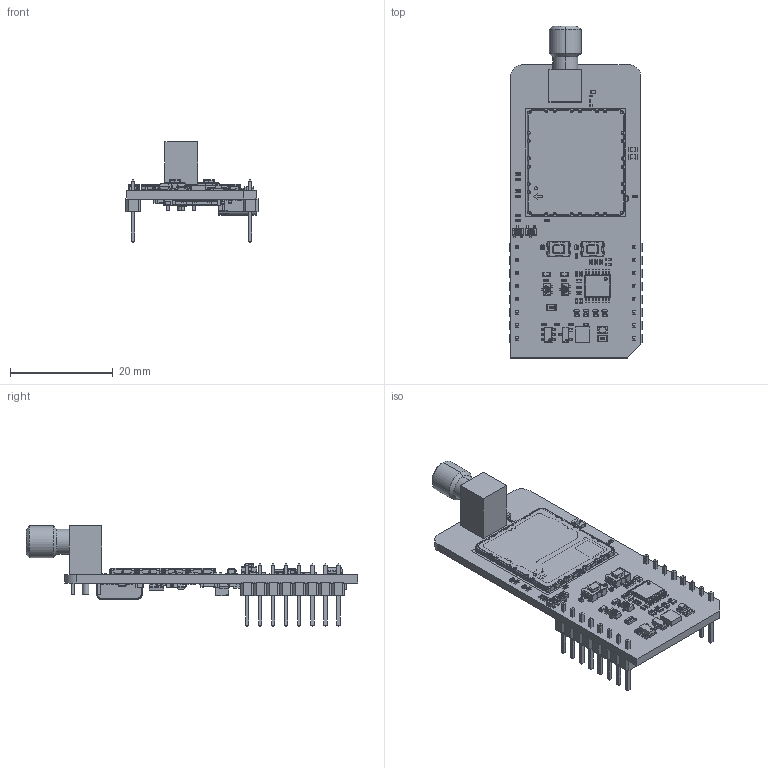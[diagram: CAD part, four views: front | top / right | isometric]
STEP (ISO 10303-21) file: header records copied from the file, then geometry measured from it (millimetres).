
FILE_DESCRIPTION(('Open CASCADE Model'),'2;1');
FILE_NAME('Open CASCADE Shape Model','2026-03-12T09:42:48',('Author'),( 'Open CASCADE'),'Open CASCADE STEP processor 7.5','Open CASCADE 7.5' ,'Unknown');
FILE_SCHEMA(('AUTOMOTIVE_DESIGN { 1 0 10303 214 1 1 1 1 }'));
Length unit declared in the file: millimetre
Products named in the file (332): PCB; Board; Open CASCADE STEP translator 7.5 1.1.1; R39; User Library-R_0402; R38; MBD1; Header 1x8; Free-Models; 1240637040; User_Library-PinHeaderX5-1_PinHeaderX5_Body_1; User_Library-PinHeaderX5-1_PinHeaderX5_Pins_1; TVS9; User Library-R_0603; R37; R36; R35; R34; R33; D2; User Library-SOT50P160X60-6; C33; User Library-SMD CAPACITOR0603; C20; U3; GC02S1_Main_PCBA_20240801; GC02S1_MAIN_PCB; Open CASCADE STEP translator 7.5 1.14.1.1.1; Open CASCADE STEP translator 7.5 1.14.1.1.2; GC02S1_SHIELDING_ASM_MP_ASM; GC02S1_SHIELDING_FRAME_MP; Open CASCADE STEP translator 7.5 1.14.1.2.1.1; Open CASCADE STEP translator 7.5 1.14.1.2.1.2; GC02S1_SHIELDING_LID_MP; Open CASCADE STEP translator 7.5 1.14.1.2.2.1; Open CASCADE STEP translator 7.5 1.14.1.2.2.2; GC02S1_PLACEMENT_HW_20240801; Open CASCADE STEP translator 7.5 1.14.1.3.1; Open CASCADE STEP translator 7.5 1.14.1.3.2; Open CASCADE STEP translator 7.5 1.14.1.3.3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
Assembly tree (424 placements, depth 10):
  PCB
    Board
      Open CASCADE STEP translator 7.5 1.1.1
    R39
      User Library-R_0402
    R38
      User Library-R_0402
    MBD1
      Header 1x8  x2
        PCB
          Free-Models
            1240637040  x2
              User_Library-PinHeaderX5-1_PinHeaderX5_Body_1
              User_Library-PinHeaderX5-1_PinHeaderX5_Pins_1
    TVS9
      User Library-R_0603
    R37
      User Library-R_0402
    R36
      User Library-R_0402
    R35
      User Library-R_0402
    R34
      User Library-R_0402
    R33
      User Library-R_0402
    D2
      User Library-SOT50P160X60-6
    C33
      User Library-SMD CAPACITOR0603
    C20
      User Library-SMD CAPACITOR0603
    U3
      GC02S1_Main_PCBA_20240801
        GC02S1_MAIN_PCB
          Open CASCADE STEP translator 7.5 1.14.1.1.1
          Open CASCADE STEP translator 7.5 1.14.1.1.2
        GC02S1_SHIELDING_ASM_MP_ASM
          GC02S1_SHIELDING_FRAME_MP
            Open CASCADE STEP translator 7.5 1.14.1.2.1.1
            Open CASCADE STEP translator 7.5 1.14.1.2.1.2
          GC02S1_SHIELDING_LID_MP
            Open CASCADE STEP translator 7.5 1.14.1.2.2.1
            Open CASCADE STEP translator 7.5 1.14.1.2.2.2
        GC02S1_PLACEMENT_HW_20240801
          Open CASCADE STEP translator 7.5 1.14.1.3.1
          Open CASCADE STEP translator 7.5 1.14.1.3.2
          Open CASCADE STEP translator 7.5 1.14.1.3.3
          Open CASCADE STEP translator 7.5 1.14.1.3.4
          Open CASCADE STEP translator 7.5 1.14.1.3.5
          Open CASCADE STEP translator 7.5 1.14.1.3.6
          Open CASCADE STEP translator 7.5 1.14.1.3.7
          Open CASCADE STEP translator 7.5 1.14.1.3.8
          Open CASCADE STEP translator 7.5 1.14.1.3.9
          Open CASCADE STEP translator 7.5 1.14.1.3.10
          Open CASCADE STEP translator 7.5 1.14.1.3.11
          Open CASCADE STEP translator 7.5 1.14.1.3.12
          Open CASCADE STEP translator 7.5 1.14.1.3.13
          Open CASCADE STEP translator 7.5 1.14.1.3.14
          Open CASCADE STEP translator 7.5 1.14.1.3.15
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Bounding box: 25.78 x 64.72 x 19.66 mm (x, y, z)
Volume: 4310.6 mm3; surface area: 9997.9 mm2
Topology: 432 solids, 432 shells, 13251 faces, 33935 edges, 22614 vertices
Faces by surface type: plane 7718, bspline 3219, cylinder 1844, sphere 344, cone 84, torus 42
Full cylindrical faces by diameter (mm): 0.6 x2, 1.307 x12
Entity records: 207716 total; most frequent: CARTESIAN_POINT 52538, ORIENTED_EDGE 25618, DIRECTION 24485, EDGE_CURVE 12809, LINE 9903, VECTOR 9903, VERTEX_POINT 8150, AXIS2_PLACEMENT_3D 7291
